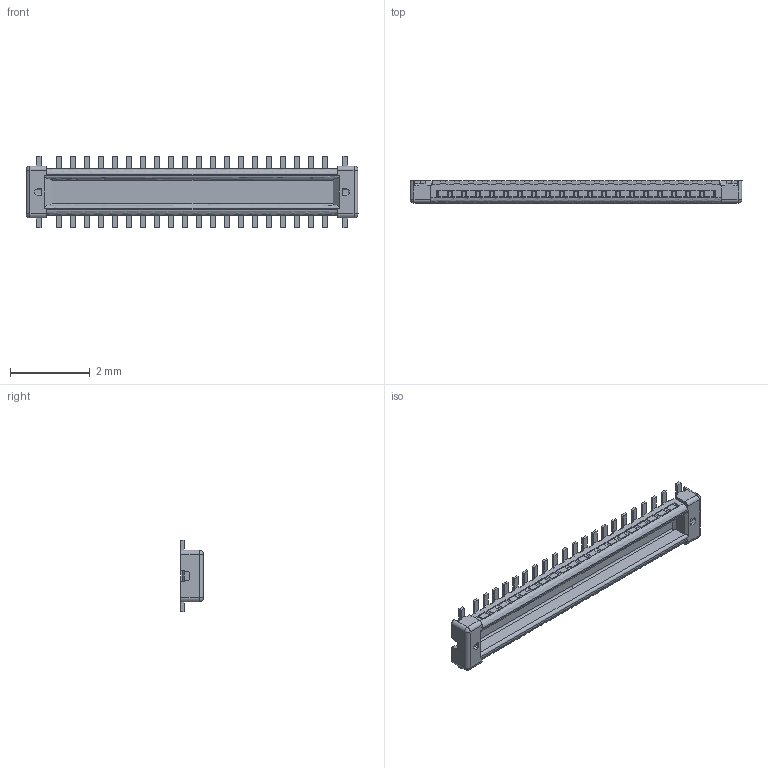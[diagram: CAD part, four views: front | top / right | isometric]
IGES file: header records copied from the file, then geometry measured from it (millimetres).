
Start section: SolidWorks IGES file using analytic representation for surfaces
Global section: file name: C:\3dwork\ota\20161117 NOVA35P 少極・識別　改定\20708-040EC PLUG ASSY IGES R1.IGS; native system: SolidWorks 2014; preprocessor: SolidWorks 2014; author: 3dcad; date: 170214.161147; units: millimetre
Bounding box: 8.31 x 0.56 x 1.8 mm (x, y, z)
Surface area: 43 mm2 (no closed solid volume)
Topology: 0 solids, 0 shells, 1162 faces, 6248 edges, 6244 vertices
Faces by surface type: bspline 1060, revolution 102
